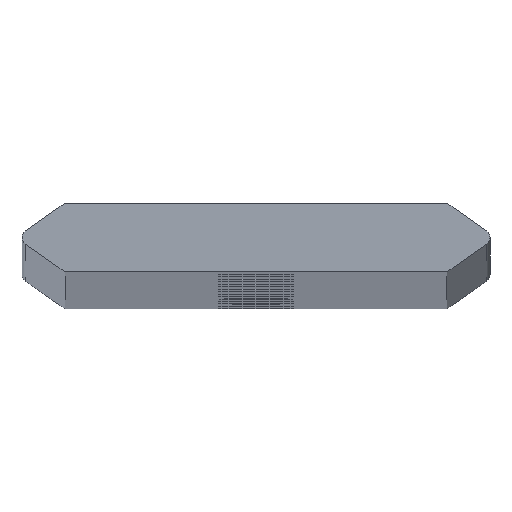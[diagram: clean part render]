
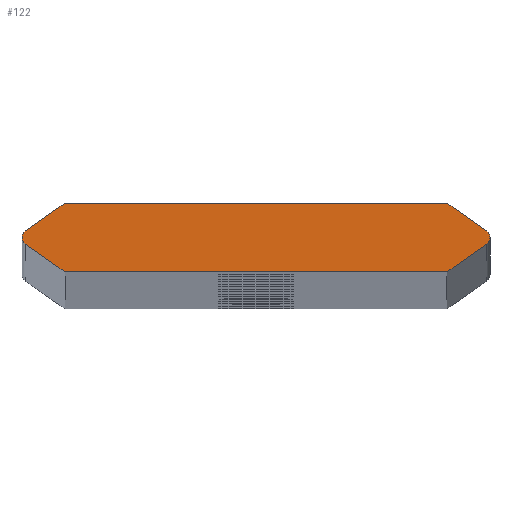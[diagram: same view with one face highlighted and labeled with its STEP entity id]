
A CAD part, top view. The second image highlights one B-rep face of the part: STEP entity #122.
In plain terms, the highlighted planar face has unit normal (0, 0, 1).
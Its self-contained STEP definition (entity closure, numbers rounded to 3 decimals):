
#122=ADVANCED_FACE('',(#226),#227,.T.);
#226=FACE_OUTER_BOUND('',#382,.T.);
#227=PLANE('',#383);
#382=EDGE_LOOP('',(#773,#774,#775,#776,#777,#778,#779,#780,#781,#782));
#383=AXIS2_PLACEMENT_3D('',#783,#784,#785);
#773=ORIENTED_EDGE('',*,*,#941,.T.);
#774=ORIENTED_EDGE('',*,*,#1078,.T.);
#775=ORIENTED_EDGE('',*,*,#1079,.F.);
#776=ORIENTED_EDGE('',*,*,#1080,.F.);
#777=ORIENTED_EDGE('',*,*,#1081,.F.);
#778=ORIENTED_EDGE('',*,*,#937,.T.);
#779=ORIENTED_EDGE('',*,*,#1082,.T.);
#780=ORIENTED_EDGE('',*,*,#1083,.F.);
#781=ORIENTED_EDGE('',*,*,#1084,.F.);
#782=ORIENTED_EDGE('',*,*,#1085,.F.);
#783=CARTESIAN_POINT('',(0.,0.,1976.0));
#784=DIRECTION('',(0.0,0.0,1.0));
#785=DIRECTION('',(1.0,0.0,0.0));
#937=EDGE_CURVE('',#1101,#1098,#1102,.T.);
#941=EDGE_CURVE('',#1109,#1106,#1110,.T.);
#1078=EDGE_CURVE('',#1106,#1336,#1338,.T.);
#1079=EDGE_CURVE('',#1339,#1336,#1340,.T.);
#1080=EDGE_CURVE('',#1341,#1339,#1342,.T.);
#1081=EDGE_CURVE('',#1101,#1341,#1343,.T.);
#1082=EDGE_CURVE('',#1098,#1344,#1345,.T.);
#1083=EDGE_CURVE('',#1346,#1344,#1347,.T.);
#1084=EDGE_CURVE('',#1348,#1346,#1349,.T.);
#1085=EDGE_CURVE('',#1109,#1348,#1350,.T.);
#1098=VERTEX_POINT('',#1368);
#1101=VERTEX_POINT('',#1372);
#1102=CIRCLE('',#1373,0.76);
#1106=VERTEX_POINT('',#1378);
#1109=VERTEX_POINT('',#1382);
#1110=CIRCLE('',#1383,0.76);
#1336=VERTEX_POINT('',#1654);
#1338=CIRCLE('',#1657,0.76);
#1339=VERTEX_POINT('',#1658);
#1340=LINE('',#1659,#1660);
#1341=VERTEX_POINT('',#1661);
#1342=LINE('',#1662,#1663);
#1343=LINE('',#1664,#1665);
#1344=VERTEX_POINT('',#1666);
#1345=CIRCLE('',#1667,0.76);
#1346=VERTEX_POINT('',#1668);
#1347=LINE('',#1669,#1670);
#1348=VERTEX_POINT('',#1671);
#1349=LINE('',#1672,#1673);
#1350=LINE('',#1674,#1675);
#1368=CARTESIAN_POINT('',(21.84,0.,1976.0));
#1372=CARTESIAN_POINT('',(21.519,-0.62,1976.0));
#1373=AXIS2_PLACEMENT_3D('',#1705,#1706,#1707);
#1378=CARTESIAN_POINT('',(-21.84,0.,1976.0));
#1382=CARTESIAN_POINT('',(-21.519,0.62,1976.0));
#1383=AXIS2_PLACEMENT_3D('',#1713,#1714,#1715);
#1654=CARTESIAN_POINT('',(-21.519,-0.62,1976.0));
#1657=AXIS2_PLACEMENT_3D('',#2032,#2033,#2034);
#1658=CARTESIAN_POINT('',(-17.821,-3.21,1976.0));
#1659=CARTESIAN_POINT('',(-22.405,0.,1976.0));
#1660=VECTOR('',#2035,1.0);
#1661=CARTESIAN_POINT('',(17.821,-3.21,1976.0));
#1662=CARTESIAN_POINT('',(17.821,-3.21,1976.0));
#1663=VECTOR('',#2036,1.0);
#1664=CARTESIAN_POINT('',(22.405,0.0,1976.0));
#1665=VECTOR('',#2037,1.0);
#1666=CARTESIAN_POINT('',(21.519,0.62,1976.0));
#1667=AXIS2_PLACEMENT_3D('',#2038,#2039,#2040);
#1668=CARTESIAN_POINT('',(17.821,3.21,1976.0));
#1669=CARTESIAN_POINT('',(22.405,0.0,1976.0));
#1670=VECTOR('',#2041,1.0);
#1671=CARTESIAN_POINT('',(-17.821,3.21,1976.0));
#1672=CARTESIAN_POINT('',(-17.821,3.21,1976.0));
#1673=VECTOR('',#2042,1.0);
#1674=CARTESIAN_POINT('',(-22.405,0.,1976.0));
#1675=VECTOR('',#2043,1.0);
#1705=CARTESIAN_POINT('',(21.08,0.0,1976.0));
#1706=DIRECTION('',(0.0,0.0,1.0));
#1707=DIRECTION('',(1.0,0.0,0.0));
#1713=CARTESIAN_POINT('',(-21.08,0.,1976.0));
#1714=DIRECTION('',(0.0,0.0,1.0));
#1715=DIRECTION('',(-1.0,0.,0.0));
#2032=CARTESIAN_POINT('',(-21.08,0.,1976.0));
#2033=DIRECTION('',(0.0,0.0,1.0));
#2034=DIRECTION('',(-1.0,0.,0.0));
#2035=DIRECTION('',(-0.819,0.574,0.0));
#2036=DIRECTION('',(-1.0,0.,0.0));
#2037=DIRECTION('',(-0.819,-0.574,0.0));
#2038=CARTESIAN_POINT('',(21.08,0.0,1976.0));
#2039=DIRECTION('',(0.0,0.0,1.0));
#2040=DIRECTION('',(1.0,0.0,0.0));
#2041=DIRECTION('',(0.819,-0.574,0.0));
#2042=DIRECTION('',(1.0,0.,0.0));
#2043=DIRECTION('',(0.819,0.574,0.0));
